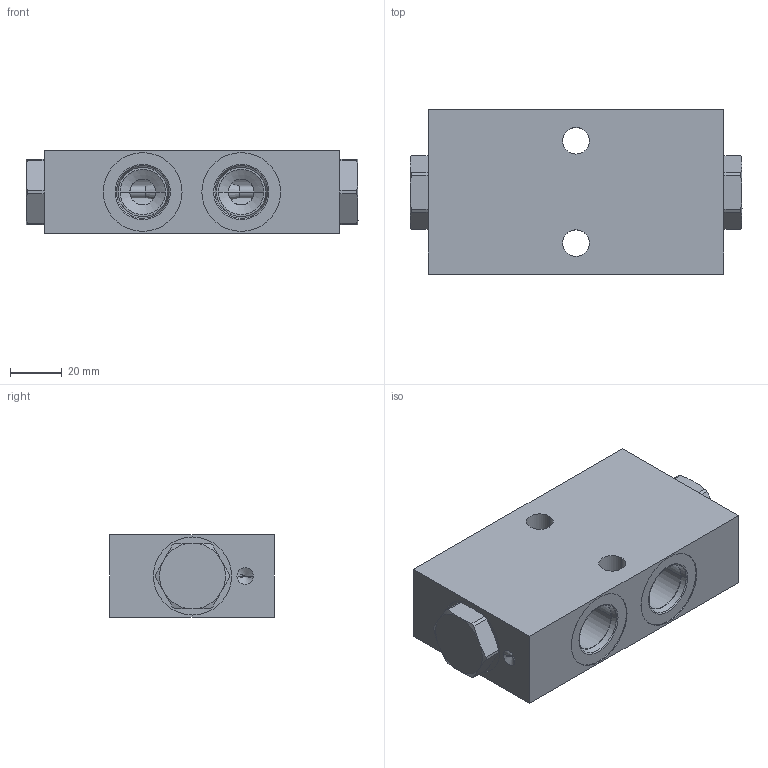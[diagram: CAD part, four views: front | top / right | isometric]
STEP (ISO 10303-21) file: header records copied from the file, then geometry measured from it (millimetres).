
FILE_DESCRIPTION((''),'2;1');
FILE_NAME('ASM0002_ASM','2015-04-13T',('mg1'),(''),'PRO/ENGINEER BY PARAMETRIC TECHNOLOGY CORPORATION, 2013230','PRO/ENGINEER BY PARAMETRIC TECHNOLOGY CORPORATION, 2013230','');
FILE_SCHEMA(('CONFIG_CONTROL_DESIGN'));
Length unit declared in the file: inch
Products named in the file (15): PRT0002; MANIFOLD_SOLID_BREP_4134; MANIFOLD_SOLID_BREP_4744; MANIFOLD_SOLID_BREP_5416; MANIFOLD_SOLID_BREP_6090; CV10-20-0-N-XX_REV7_1_ASM; CV10-20_ASM; 7013300; PRT0003; PRT0004; PRT0005; PRT0006; ASM0004_ASM; ASM0003_ASM; ASM0002_ASM
Assembly tree (14 placements, depth 4):
  ASM0002_ASM
    PRT0002
    CV10-20_ASM
      CV10-20-0-N-XX_REV7_1_ASM
        MANIFOLD_SOLID_BREP_4134
        MANIFOLD_SOLID_BREP_4744
        MANIFOLD_SOLID_BREP_5416
        MANIFOLD_SOLID_BREP_6090
    7013300
    ASM0003_ASM
      ASM0004_ASM
        PRT0003
        PRT0004
        PRT0005
        PRT0006
Bounding box: 128.4 x 63.5 x 31.75 mm (x, y, z)
Volume: 199113.7 mm3; surface area: 49763 mm2
Topology: 10 solids, 10 shells, 441 faces, 1029 edges, 635 vertices
Faces by surface type: cylinder 160, torus 112, cone 99, plane 66, bspline 4
Entity records: 14558 total; most frequent: CARTESIAN_POINT 3859, DIRECTION 2425, ORIENTED_EDGE 2054, AXIS2_PLACEMENT_3D 1068, EDGE_CURVE 1027, VERTEX_POINT 635, CIRCLE 592, EDGE_LOOP 496
